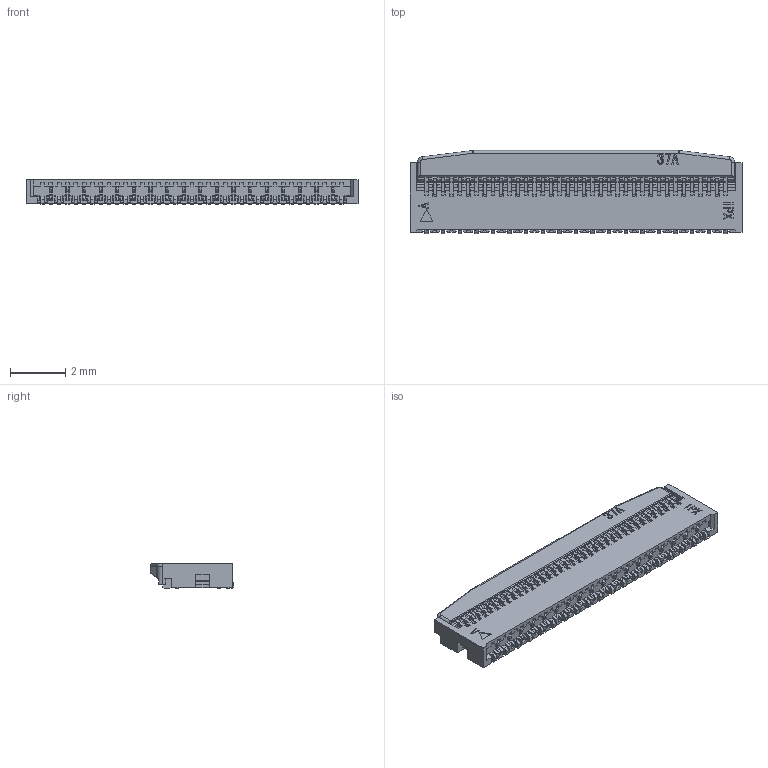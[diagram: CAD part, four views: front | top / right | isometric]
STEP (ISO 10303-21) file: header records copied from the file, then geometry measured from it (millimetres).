
FILE_DESCRIPTION (( 'STEP AP203' ), '1' );
FILE_NAME ('20527-037ExxxC ACT CLOSE STEP R3 ALL.STEP', '2012-07-19T10:18:04', ( 'kaihatsu-3dcad-12' ), ( '' ), 'SwSTEP 2.0', 'SolidWorks 2011', '' );
FILE_SCHEMA (( 'CONFIG_CONTROL_DESIGN' ));
Products named in the file (1): 20527-037ExxxC ACT CLOSE STEP R3 ALL
Bounding box: 12 x 3 x 0.9 mm (x, y, z)
Volume: 23.7 mm3; surface area: 164.9 mm2
Topology: 1 solids, 1 shells, 3271 faces, 10179 edges, 6714 vertices
Faces by surface type: plane 2728, cylinder 507, bspline 32, sphere 2, torus 2
Entity records: 113036 total; most frequent: CARTESIAN_POINT 21763, ORIENTED_EDGE 20354, DIRECTION 17521, EDGE_CURVE 10177, LINE 8941, VECTOR 8941, VERTEX_POINT 6714, AXIS2_PLACEMENT_3D 4290
